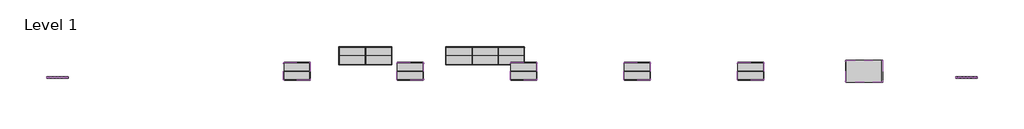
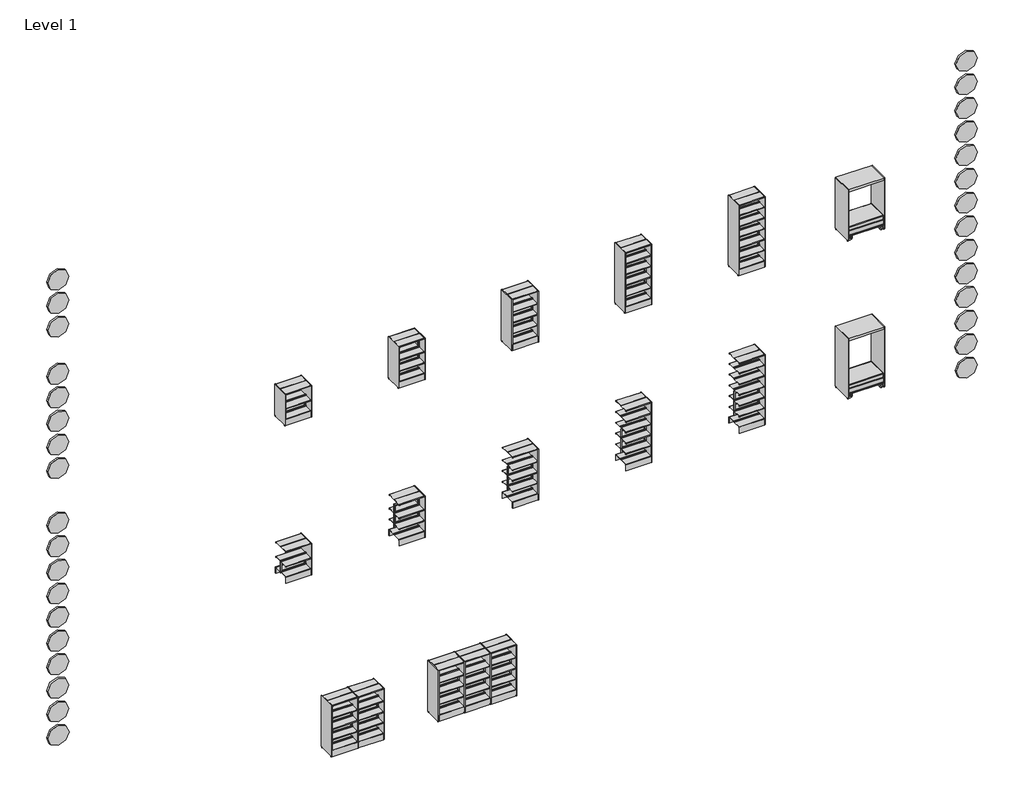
# One storey: 32 proxies, 17 furniture elements.
"""IFC4 building model written with IfcOpenShell, lengths in millimetres."""

from ifc_helpers import new_model, si_unit, origin, place, context, project, spatial, transform, mapped, element, save
from components import materialmodel_materialmodel_37012b21, furniture_750x510_03b311b1, furniture_750x510_247eee5f, furniture_750x510_6453d18b, furniture_750x510_c864f297, furniture_750x510_94e61f0f, furniture_750x510_f7d4f791, furniture_750x510_ac6173c1, furniture_750x510_6c40ee6c, furniture_750x510_52655885, furniture_750x510_70c1093e, bk_library_sitting_cave_to_shelf_1530_a43be609, bk_library_sitting_cave_to_shelf_1800_9197c93b

model = new_model("IFC4")

# Units and contexts
model_context = context("Model", 3, world=origin())
ifc_project = project(units=[si_unit("LENGTHUNIT", "METRE", prefix="MILLI")], contexts=[model_context])

# Site, building, storey
site = spatial("IfcSite", under=ifc_project)
building = spatial("IfcBuilding", under=site)
storey = spatial("IfcBuildingStorey", under=building, Name="Level 1", Elevation=0.0)

# Proxies
placement = place(None, origin())
materialmodel_materialmodel_shape = materialmodel_materialmodel_37012b21(model_context)
element("IfcBuildingElementProxy", 1, Name="MaterialModel : MaterialModel", ObjectType="MaterialModel : MaterialModel", at=placement, inside=storey, context=model_context, shape_type="MappedRepresentation", body=[
    mapped(materialmodel_materialmodel_shape, transform((-18567.0147555, 6390.3767321, 6820.7797695), x_axis=(1.0, 0.0, 0.0), y_axis=(0.0, 1.0, 0.0), z_axis=(0.0, 0.0, 1.0))),
])
element("IfcBuildingElementProxy", 2, Name="MaterialModel : MaterialModel", ObjectType="MaterialModel : MaterialModel", at=placement, inside=storey, context=model_context, shape_type="MappedRepresentation", body=[
    mapped(materialmodel_materialmodel_shape, transform((-18567.0147555, 6390.3767321, 7523.0950226), x_axis=(1.0, 0.0, 0.0), y_axis=(0.0, 1.0, 0.0), z_axis=(0.0, 0.0, 1.0))),
])
element("IfcBuildingElementProxy", 3, Name="MaterialModel : MaterialModel", ObjectType="MaterialModel : MaterialModel", at=placement, inside=storey, context=model_context, shape_type="MappedRepresentation", body=[
    mapped(materialmodel_materialmodel_shape, transform((-18567.0147555, 6390.3767321, 6118.4645164), x_axis=(1.0, 0.0, 0.0), y_axis=(0.0, 1.0, 0.0), z_axis=(0.0, 0.0, 1.0))),
])
element("IfcBuildingElementProxy", 4, Name="MaterialModel : MaterialModel", ObjectType="MaterialModel : MaterialModel", at=placement, inside=storey, context=model_context, shape_type="MappedRepresentation", body=[
    mapped(materialmodel_materialmodel_shape, transform((-18567.0147555, 6390.3767321, 4713.8340103), x_axis=(1.0, 0.0, 0.0), y_axis=(0.0, 1.0, 0.0), z_axis=(0.0, 0.0, 1.0))),
])
element("IfcBuildingElementProxy", 5, Name="MaterialModel : MaterialModel", ObjectType="MaterialModel : MaterialModel", at=placement, inside=storey, context=model_context, shape_type="MappedRepresentation", body=[
    mapped(materialmodel_materialmodel_shape, transform((-18567.0147555, 6390.3767321, 4011.5187572), x_axis=(1.0, 0.0, 0.0), y_axis=(0.0, 1.0, 0.0), z_axis=(0.0, 0.0, 1.0))),
])
element("IfcBuildingElementProxy", 6, Name="MaterialModel : MaterialModel", ObjectType="MaterialModel : MaterialModel", at=placement, inside=storey, context=model_context, shape_type="MappedRepresentation", body=[
    mapped(materialmodel_materialmodel_shape, transform((-18567.0147555, 6390.3767321, 3309.2035041), x_axis=(1.0, 0.0, 0.0), y_axis=(0.0, 1.0, 0.0), z_axis=(0.0, 0.0, 1.0))),
])
element("IfcBuildingElementProxy", 7, Name="MaterialModel : MaterialModel", ObjectType="MaterialModel : MaterialModel", at=placement, inside=storey, context=model_context, shape_type="MappedRepresentation", body=[
    mapped(materialmodel_materialmodel_shape, transform((-18567.0147555, 6390.3767321, 2606.888251), x_axis=(1.0, 0.0, 0.0), y_axis=(0.0, 1.0, 0.0), z_axis=(0.0, 0.0, 1.0))),
])
element("IfcBuildingElementProxy", 8, Name="MaterialModel : MaterialModel", ObjectType="MaterialModel : MaterialModel", at=placement, inside=storey, context=model_context, shape_type="MappedRepresentation", body=[
    mapped(materialmodel_materialmodel_shape, transform((-18567.0147555, 6390.3767321, 1904.5729979), x_axis=(1.0, 0.0, 0.0), y_axis=(0.0, 1.0, 0.0), z_axis=(0.0, 0.0, 1.0))),
])
element("IfcBuildingElementProxy", 9, Name="MaterialModel : MaterialModel", ObjectType="MaterialModel : MaterialModel", at=placement, inside=storey, context=model_context, shape_type="MappedRepresentation", body=[
    mapped(materialmodel_materialmodel_shape, transform((-18567.0147555, 6390.3767321, 280.2904747), x_axis=(1.0, 0.0, 0.0), y_axis=(0.0, 1.0, 0.0), z_axis=(0.0, 0.0, 1.0))),
])
element("IfcBuildingElementProxy", 10, Name="MaterialModel : MaterialModel", ObjectType="MaterialModel : MaterialModel", at=placement, inside=storey, context=model_context, shape_type="MappedRepresentation", body=[
    mapped(materialmodel_materialmodel_shape, transform((-18567.0147555, 6390.3767321, -1124.3400315), x_axis=(1.0, 0.0, 0.0), y_axis=(0.0, 1.0, 0.0), z_axis=(0.0, 0.0, 1.0))),
])
element("IfcBuildingElementProxy", 11, Name="MaterialModel : MaterialModel", ObjectType="MaterialModel : MaterialModel", at=placement, inside=storey, context=model_context, shape_type="MappedRepresentation", body=[
    mapped(materialmodel_materialmodel_shape, transform((-18567.0147555, 6390.3767321, -422.0247784), x_axis=(1.0, 0.0, 0.0), y_axis=(0.0, 1.0, 0.0), z_axis=(0.0, 0.0, 1.0))),
])
element("IfcBuildingElementProxy", 12, Name="MaterialModel : MaterialModel", ObjectType="MaterialModel : MaterialModel", at=placement, inside=storey, context=model_context, shape_type="MappedRepresentation", body=[
    mapped(materialmodel_materialmodel_shape, transform((-18567.0147555, 6390.3767321, -2528.9705377), x_axis=(1.0, 0.0, 0.0), y_axis=(0.0, 1.0, 0.0), z_axis=(0.0, 0.0, 1.0))),
])
element("IfcBuildingElementProxy", 13, Name="MaterialModel : MaterialModel", ObjectType="MaterialModel : MaterialModel", at=placement, inside=storey, context=model_context, shape_type="MappedRepresentation", body=[
    mapped(materialmodel_materialmodel_shape, transform((-18567.0147555, 6390.3767321, -1826.6552846), x_axis=(1.0, 0.0, 0.0), y_axis=(0.0, 1.0, 0.0), z_axis=(0.0, 0.0, 1.0))),
])
element("IfcBuildingElementProxy", 14, Name="MaterialModel : MaterialModel", ObjectType="MaterialModel : MaterialModel", at=placement, inside=storey, context=model_context, shape_type="MappedRepresentation", body=[
    mapped(materialmodel_materialmodel_shape, transform((-18567.0147555, 6390.3767321, -3933.6010438), x_axis=(1.0, 0.0, 0.0), y_axis=(0.0, 1.0, 0.0), z_axis=(0.0, 0.0, 1.0))),
])
element("IfcBuildingElementProxy", 15, Name="MaterialModel : MaterialModel", ObjectType="MaterialModel : MaterialModel", at=placement, inside=storey, context=model_context, shape_type="MappedRepresentation", body=[
    mapped(materialmodel_materialmodel_shape, transform((-18567.0147555, 6390.3767321, -3231.2857907), x_axis=(1.0, 0.0, 0.0), y_axis=(0.0, 1.0, 0.0), z_axis=(0.0, 0.0, 1.0))),
])
element("IfcBuildingElementProxy", 16, Name="MaterialModel : MaterialModel", ObjectType="MaterialModel : MaterialModel", at=placement, inside=storey, context=model_context, shape_type="MappedRepresentation", body=[
    mapped(materialmodel_materialmodel_shape, transform((-18567.0147555, 6390.3767321, -5338.23155), x_axis=(1.0, 0.0, 0.0), y_axis=(0.0, 1.0, 0.0), z_axis=(0.0, 0.0, 1.0))),
])
element("IfcBuildingElementProxy", 17, Name="MaterialModel : MaterialModel", ObjectType="MaterialModel : MaterialModel", at=placement, inside=storey, context=model_context, shape_type="MappedRepresentation", body=[
    mapped(materialmodel_materialmodel_shape, transform((-18567.0147555, 6390.3767321, -4635.9162969), x_axis=(1.0, 0.0, 0.0), y_axis=(0.0, 1.0, 0.0), z_axis=(0.0, 0.0, 1.0))),
])
element("IfcBuildingElementProxy", 18, Name="MaterialModel : MaterialModel", ObjectType="MaterialModel : MaterialModel", at=placement, inside=storey, context=model_context, shape_type="MappedRepresentation", body=[
    mapped(materialmodel_materialmodel_shape, transform((-18562.8693038, 6390.3767321, -6040.5468031), x_axis=(1.0, 0.0, 0.0), y_axis=(0.0, 1.0, 0.0), z_axis=(0.0, 0.0, 1.0))),
])
element("IfcBuildingElementProxy", 19, Name="MaterialModel : MaterialModel", ObjectType="MaterialModel : MaterialModel", at=placement, inside=storey, context=model_context, shape_type="MappedRepresentation", body=[
    mapped(materialmodel_materialmodel_shape, transform((6997.3918806, 6390.3767321, 4380.0096307), x_axis=(1.0, 0.0, 0.0), y_axis=(0.0, 1.0, 0.0), z_axis=(0.0, 0.0, 1.0))),
])
element("IfcBuildingElementProxy", 20, Name="MaterialModel : MaterialModel", ObjectType="MaterialModel : MaterialModel", at=placement, inside=storey, context=model_context, shape_type="MappedRepresentation", body=[
    mapped(materialmodel_materialmodel_shape, transform((6997.3918806, 6390.3767321, 5082.3248837), x_axis=(1.0, 0.0, 0.0), y_axis=(0.0, 1.0, 0.0), z_axis=(0.0, 0.0, 1.0))),
])
element("IfcBuildingElementProxy", 21, Name="MaterialModel : MaterialModel", ObjectType="MaterialModel : MaterialModel", at=placement, inside=storey, context=model_context, shape_type="MappedRepresentation", body=[
    mapped(materialmodel_materialmodel_shape, transform((6997.3918806, 6390.3767321, 2975.3791245), x_axis=(1.0, 0.0, 0.0), y_axis=(0.0, 1.0, 0.0), z_axis=(0.0, 0.0, 1.0))),
])
element("IfcBuildingElementProxy", 22, Name="MaterialModel : MaterialModel", ObjectType="MaterialModel : MaterialModel", at=placement, inside=storey, context=model_context, shape_type="MappedRepresentation", body=[
    mapped(materialmodel_materialmodel_shape, transform((6997.3918806, 6390.3767321, 3677.6943776), x_axis=(1.0, 0.0, 0.0), y_axis=(0.0, 1.0, 0.0), z_axis=(0.0, 0.0, 1.0))),
])
element("IfcBuildingElementProxy", 23, Name="MaterialModel : MaterialModel", ObjectType="MaterialModel : MaterialModel", at=placement, inside=storey, context=model_context, shape_type="MappedRepresentation", body=[
    mapped(materialmodel_materialmodel_shape, transform((6997.3918806, 6390.3767321, 1570.7486183), x_axis=(1.0, 0.0, 0.0), y_axis=(0.0, 1.0, 0.0), z_axis=(0.0, 0.0, 1.0))),
])
element("IfcBuildingElementProxy", 24, Name="MaterialModel : MaterialModel", ObjectType="MaterialModel : MaterialModel", at=placement, inside=storey, context=model_context, shape_type="MappedRepresentation", body=[
    mapped(materialmodel_materialmodel_shape, transform((6997.3918806, 6390.3767321, 2273.0638714), x_axis=(1.0, 0.0, 0.0), y_axis=(0.0, 1.0, 0.0), z_axis=(0.0, 0.0, 1.0))),
])
element("IfcBuildingElementProxy", 25, Name="MaterialModel : MaterialModel", ObjectType="MaterialModel : MaterialModel", at=placement, inside=storey, context=model_context, shape_type="MappedRepresentation", body=[
    mapped(materialmodel_materialmodel_shape, transform((6997.3918806, 6390.3767321, 857.8970235), x_axis=(1.0, 0.0, 0.0), y_axis=(0.0, 1.0, 0.0), z_axis=(0.0, 0.0, 1.0))),
])
element("IfcBuildingElementProxy", 26, Name="MaterialModel : MaterialModel", ObjectType="MaterialModel : MaterialModel", at=placement, inside=storey, context=model_context, shape_type="MappedRepresentation", body=[
    mapped(materialmodel_materialmodel_shape, transform((6997.3918806, 6390.3767321, -546.7334827), x_axis=(1.0, 0.0, 0.0), y_axis=(0.0, 1.0, 0.0), z_axis=(0.0, 0.0, 1.0))),
])
element("IfcBuildingElementProxy", 27, Name="MaterialModel : MaterialModel", ObjectType="MaterialModel : MaterialModel", at=placement, inside=storey, context=model_context, shape_type="MappedRepresentation", body=[
    mapped(materialmodel_materialmodel_shape, transform((6997.3918806, 6390.3767321, 155.5817704), x_axis=(1.0, 0.0, 0.0), y_axis=(0.0, 1.0, 0.0), z_axis=(0.0, 0.0, 1.0))),
])
element("IfcBuildingElementProxy", 28, Name="MaterialModel : MaterialModel", ObjectType="MaterialModel : MaterialModel", at=placement, inside=storey, context=model_context, shape_type="MappedRepresentation", body=[
    mapped(materialmodel_materialmodel_shape, transform((6997.3918806, 6390.3767321, -1951.3639888), x_axis=(1.0, 0.0, 0.0), y_axis=(0.0, 1.0, 0.0), z_axis=(0.0, 0.0, 1.0))),
])
element("IfcBuildingElementProxy", 29, Name="MaterialModel : MaterialModel", ObjectType="MaterialModel : MaterialModel", at=placement, inside=storey, context=model_context, shape_type="MappedRepresentation", body=[
    mapped(materialmodel_materialmodel_shape, transform((6997.3918806, 6390.3767321, -1249.0487358), x_axis=(1.0, 0.0, 0.0), y_axis=(0.0, 1.0, 0.0), z_axis=(0.0, 0.0, 1.0))),
])
element("IfcBuildingElementProxy", 30, Name="MaterialModel : MaterialModel", ObjectType="MaterialModel : MaterialModel", at=placement, inside=storey, context=model_context, shape_type="MappedRepresentation", body=[
    mapped(materialmodel_materialmodel_shape, transform((6997.3918806, 6390.3767321, -3355.994495), x_axis=(1.0, 0.0, 0.0), y_axis=(0.0, 1.0, 0.0), z_axis=(0.0, 0.0, 1.0))),
])
element("IfcBuildingElementProxy", 31, Name="MaterialModel : MaterialModel", ObjectType="MaterialModel : MaterialModel", at=placement, inside=storey, context=model_context, shape_type="MappedRepresentation", body=[
    mapped(materialmodel_materialmodel_shape, transform((6997.3918806, 6390.3767321, -2653.6792419), x_axis=(1.0, 0.0, 0.0), y_axis=(0.0, 1.0, 0.0), z_axis=(0.0, 0.0, 1.0))),
])
element("IfcBuildingElementProxy", 32, Name="MaterialModel : MaterialModel", ObjectType="MaterialModel : MaterialModel", at=placement, inside=storey, context=model_context, shape_type="MappedRepresentation", body=[
    mapped(materialmodel_materialmodel_shape, transform((7001.5373322, 6390.3767321, -4058.3097481), x_axis=(1.0, 0.0, 0.0), y_axis=(0.0, 1.0, 0.0), z_axis=(0.0, 0.0, 1.0))),
])

# Furniture
furniture_750x510_shape = furniture_750x510_03b311b1(model_context)
element("IfcFurniture", 33, ObjectType="BK Library - Smaaland DS - 2100 : 750x510", at=placement, inside=storey, context=model_context, shape_type="MappedRepresentation", body=[
    mapped(furniture_750x510_shape, transform((924.1302204, 6539.3767164, 1273.9383366), x_axis=(1.0, 0.0, 0.0), y_axis=(0.0, 1.0, 0.0), z_axis=(0.0, 0.0, 1.0))),
])
furniture_750x510_2_shape = furniture_750x510_247eee5f(model_context)
element("IfcFurniture", 34, ObjectType="BK Library - Smaaland DS - 1800 : 750x510", at=placement, inside=storey, context=model_context, shape_type="MappedRepresentation", body=[
    mapped(furniture_750x510_2_shape, transform((-2265.8697796, 6539.3767164, 1273.9383366), x_axis=(1.0, 0.0, 0.0), y_axis=(0.0, 1.0, 0.0), z_axis=(0.0, 0.0, 1.0))),
])
furniture_750x510_3_shape = furniture_750x510_6453d18b(model_context)
element("IfcFurniture", 35, ObjectType="BK Library - Smaaland DS - 1530 : 750x510", at=placement, inside=storey, context=model_context, shape_type="MappedRepresentation", body=[
    mapped(furniture_750x510_3_shape, transform((-10271.1347342, 6981.3401314, -9400.0), x_axis=(1.0, 0.0, 0.0), y_axis=(0.0, 1.0, 0.0), z_axis=(0.0, 0.0, 1.0))),
])
element("IfcFurniture", 36, ObjectType="BK Library - Smaaland DS - 1530 : 750x510", at=placement, inside=storey, context=model_context, shape_type="MappedRepresentation", body=[
    mapped(furniture_750x510_3_shape, transform((-7271.1347342, 6981.3401314, -9400.0), x_axis=(1.0, 0.0, 0.0), y_axis=(0.0, 1.0, 0.0), z_axis=(0.0, 0.0, 1.0))),
])
element("IfcFurniture", 37, ObjectType="BK Library - Smaaland DS - 1530 : 750x510", at=placement, inside=storey, context=model_context, shape_type="MappedRepresentation", body=[
    mapped(furniture_750x510_3_shape, transform((-5455.8697796, 6539.3767164, 1273.9383366), x_axis=(1.0, 0.0, 0.0), y_axis=(0.0, 1.0, 0.0), z_axis=(0.0, 0.0, 1.0))),
])
furniture_750x510_4_shape = furniture_750x510_c864f297(model_context)
element("IfcFurniture", 38, ObjectType="BK Library - Smaaland DS - 1240 : 750x510", at=placement, inside=storey, context=model_context, shape_type="MappedRepresentation", body=[
    mapped(furniture_750x510_4_shape, transform((-8645.8697796, 6539.3767164, 1273.9383366), x_axis=(1.0, 0.0, 0.0), y_axis=(0.0, 1.0, 0.0), z_axis=(0.0, 0.0, 1.0))),
])
furniture_750x510_5_shape = furniture_750x510_94e61f0f(model_context)
element("IfcFurniture", 39, ObjectType="BK Library - Smaaland DS - 950 : 750x510", at=placement, inside=storey, context=model_context, shape_type="MappedRepresentation", body=[
    mapped(furniture_750x510_5_shape, transform((-11835.8697796, 6539.3767164, 1273.9383366), x_axis=(1.0, 0.0, 0.0), y_axis=(0.0, 1.0, 0.0), z_axis=(0.0, 0.0, 1.0))),
])
furniture_750x510_6_shape = furniture_750x510_f7d4f791(model_context)
element("IfcFurniture", 40, ObjectType="BK Library - Smaaland DF - 2100 : 750x510", at=placement, inside=storey, context=model_context, shape_type="MappedRepresentation", body=[
    mapped(furniture_750x510_6_shape, transform((924.1302204, 6539.3767164, -3426.0616634), x_axis=(1.0, 0.0, 0.0), y_axis=(0.0, 1.0, 0.0), z_axis=(0.0, 0.0, 1.0))),
])
furniture_750x510_7_shape = furniture_750x510_ac6173c1(model_context)
element("IfcFurniture", 41, ObjectType="BK Library - Smaaland DF - 1800 : 750x510", at=placement, inside=storey, context=model_context, shape_type="MappedRepresentation", body=[
    mapped(furniture_750x510_7_shape, transform((-2265.8697796, 6539.3767164, -3426.0616634), x_axis=(1.0, 0.0, 0.0), y_axis=(0.0, 1.0, 0.0), z_axis=(0.0, 0.0, 1.0))),
])
furniture_750x510_8_shape = furniture_750x510_6c40ee6c(model_context)
element("IfcFurniture", 42, ObjectType="BK Library - Smaaland DF - 1530 : 750x510", at=placement, inside=storey, context=model_context, shape_type="MappedRepresentation", body=[
    mapped(furniture_750x510_8_shape, transform((-9540.1347342, 6981.3401314, -9400.0), x_axis=(1.0, 0.0, 0.0), y_axis=(0.0, 1.0, 0.0), z_axis=(0.0, 0.0, 1.0))),
])
element("IfcFurniture", 43, ObjectType="BK Library - Smaaland DF - 1530 : 750x510", at=placement, inside=storey, context=model_context, shape_type="MappedRepresentation", body=[
    mapped(furniture_750x510_8_shape, transform((-6540.1347342, 6981.3401314, -9400.0), x_axis=(1.0, 0.0, 0.0), y_axis=(0.0, 1.0, 0.0), z_axis=(0.0, 0.0, 1.0))),
])
element("IfcFurniture", 44, ObjectType="BK Library - Smaaland DF - 1530 : 750x510", at=placement, inside=storey, context=model_context, shape_type="MappedRepresentation", body=[
    mapped(furniture_750x510_8_shape, transform((-5809.1347342, 6981.3401314, -9400.0), x_axis=(1.0, 0.0, 0.0), y_axis=(0.0, 1.0, 0.0), z_axis=(0.0, 0.0, 1.0))),
])
element("IfcFurniture", 45, ObjectType="BK Library - Smaaland DF - 1530 : 750x510", at=placement, inside=storey, context=model_context, shape_type="MappedRepresentation", body=[
    mapped(furniture_750x510_8_shape, transform((-5455.8697796, 6539.3767164, -3426.0616634), x_axis=(1.0, 0.0, 0.0), y_axis=(0.0, 1.0, 0.0), z_axis=(0.0, 0.0, 1.0))),
])
furniture_750x510_9_shape = furniture_750x510_52655885(model_context)
element("IfcFurniture", 46, ObjectType="BK Library - Smaaland DF - 1240 : 750x510", at=placement, inside=storey, context=model_context, shape_type="MappedRepresentation", body=[
    mapped(furniture_750x510_9_shape, transform((-8645.8697796, 6539.3767164, -3426.0616634), x_axis=(1.0, 0.0, 0.0), y_axis=(0.0, 1.0, 0.0), z_axis=(0.0, 0.0, 1.0))),
])
furniture_750x510_10_shape = furniture_750x510_70c1093e(model_context)
element("IfcFurniture", 47, ObjectType="BK Library - Smaaland DF - 950 : 750x510", at=placement, inside=storey, context=model_context, shape_type="MappedRepresentation", body=[
    mapped(furniture_750x510_10_shape, transform((-11835.8697796, 6539.3767164, -3426.0616634), x_axis=(1.0, 0.0, 0.0), y_axis=(0.0, 1.0, 0.0), z_axis=(0.0, 0.0, 1.0))),
])
bk_library_sitting_cave_to_shelf_1530_shape = bk_library_sitting_cave_to_shelf_1530_a43be609(model_context)
element("IfcFurniture", 48, ObjectType="BK Library - Sitting Cave to Shelf : 1530", at=placement, inside=storey, context=model_context, shape_type="MappedRepresentation", body=[
    mapped(bk_library_sitting_cave_to_shelf_1530_shape, transform((4114.1302204, 6539.3767164, 1273.9383366), x_axis=(1.0, 0.0, 0.0), y_axis=(0.0, 1.0, 0.0), z_axis=(0.0, 0.0, 1.0))),
])
bk_library_sitting_cave_to_shelf_1800_shape = bk_library_sitting_cave_to_shelf_1800_9197c93b(model_context)
element("IfcFurniture", 49, ObjectType="BK Library - Sitting Cave to Shelf : 1800", at=placement, inside=storey, context=model_context, shape_type="MappedRepresentation", body=[
    mapped(bk_library_sitting_cave_to_shelf_1800_shape, transform((4114.1302204, 6539.3767164, -3426.0616634), x_axis=(1.0, 0.0, 0.0), y_axis=(0.0, 1.0, 0.0), z_axis=(0.0, 0.0, 1.0))),
])

save(model, "model.ifc")
